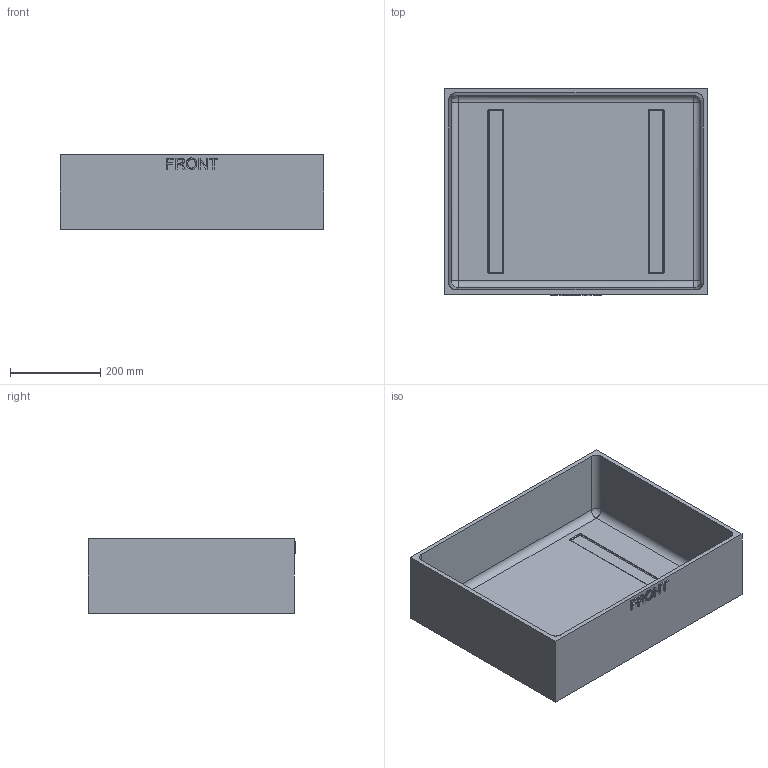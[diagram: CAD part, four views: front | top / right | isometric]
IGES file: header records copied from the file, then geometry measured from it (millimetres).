
Start section: Comment
Global section: file name: 2700-base_internal_tub.igs; native system:  By UGS Corp.; preprocessor: XPlus GENERIC/IGES 3.0; author: Author; organization: Title; date: 20100513.141949; units: millimetre
Bounding box: 584.2 x 460.38 x 165.1 mm (x, y, z)
Surface area: 1161973.8 mm2 (no closed solid volume)
Topology: 0 solids, 0 shells, 105 faces, 610 edges, 606 vertices
Faces by surface type: bspline 105
